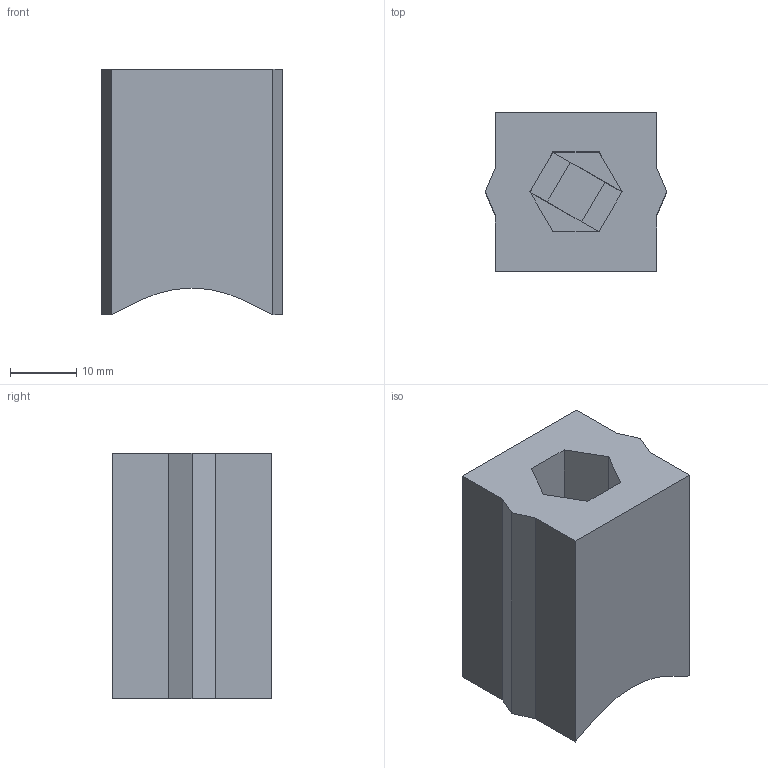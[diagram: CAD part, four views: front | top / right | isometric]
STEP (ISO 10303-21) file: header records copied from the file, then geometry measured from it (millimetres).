
FILE_DESCRIPTION (( 'STEP AP214' ), '1' );
FILE_NAME ('DS_v2_Pritlak.STEP', '2026-03-22T08:44:31', ( '' ), ( '' ), 'SwSTEP 2.0', 'SolidWorks 2026', '' );
FILE_SCHEMA (( 'AUTOMOTIVE_DESIGN' ));
Length unit declared in the file: millimetre
Products named in the file (1): DS_v2_Pritlak
Bounding box: 27.31 x 24 x 37 mm (x, y, z)
Volume: 17306.9 mm3; surface area: 5787.1 mm2
Topology: 1 solids, 1 shells, 31 faces, 76 edges, 48 vertices
Faces by surface type: plane 30, cylinder 1
Entity records: 911 total; most frequent: CARTESIAN_POINT 156, ORIENTED_EDGE 152, DIRECTION 142, EDGE_CURVE 76, VECTOR 74, LINE 74, VERTEX_POINT 48, AXIS2_PLACEMENT_3D 34
